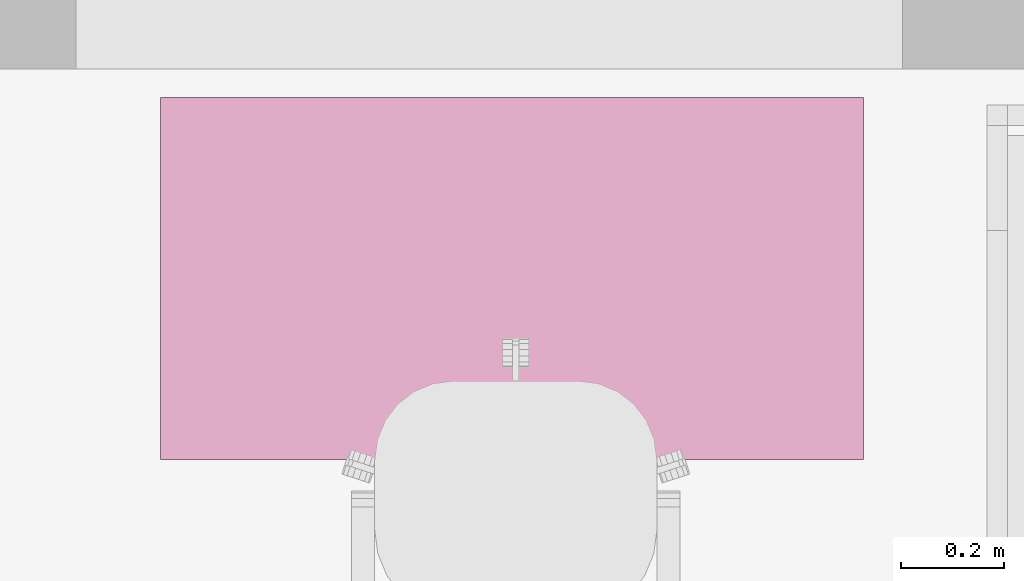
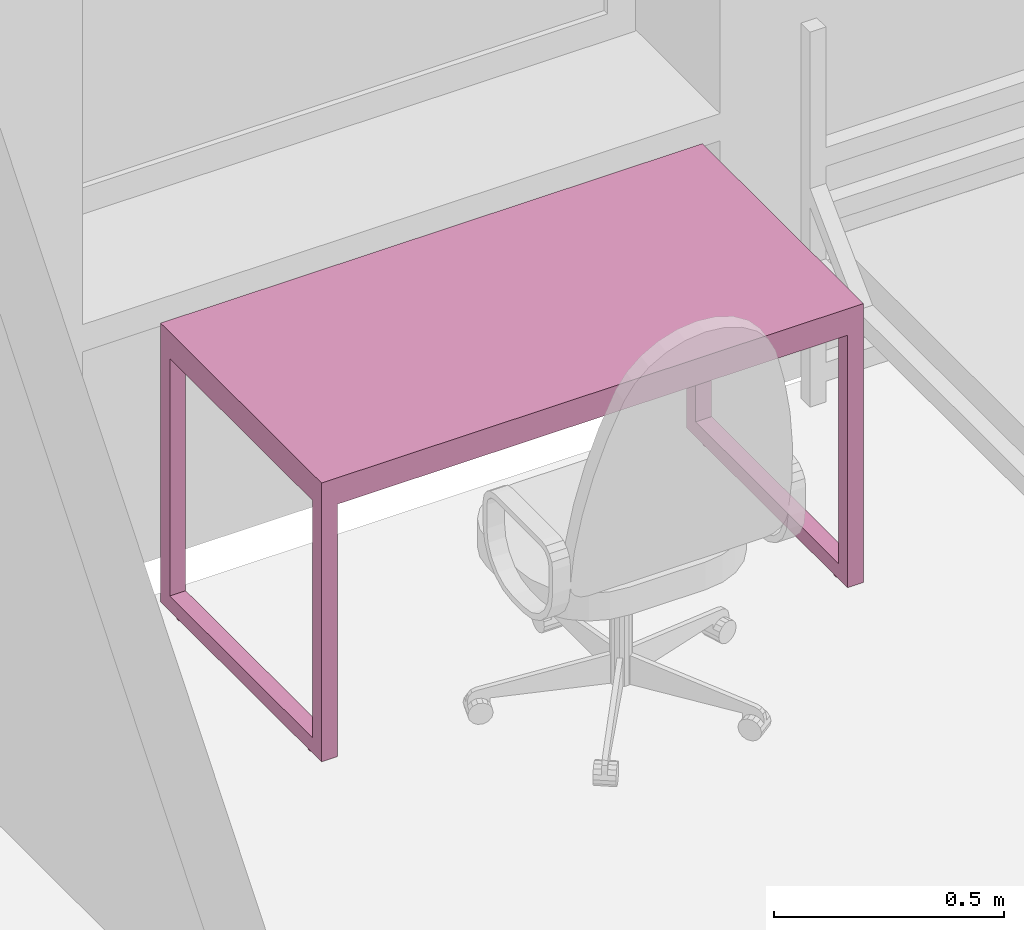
# One storey, part 30 of 48: 1 furnishing.
"""IFC2X3 building model written with IfcOpenShell, lengths in millimetres."""

import ifcopenshell
import ifcopenshell.guid

model = None  # the IFC model being written
_history = None  # IfcOwnerHistory: only IFC2X3 demands one
_inside = {}  # id of a spatial element -> (the spatial element, [elements in it])
_under = {}  # id of a project, library or spatial element -> (it, [spatial elements below it])
_declared = {}  # id of a project -> (the project, [libraries it declares])
_typed = {}  # id of a type object -> (the type object, [elements of that type])
_made_of = {}  # id of a material, layer set ... -> (it, [elements and type objects made of it])


def new_model(schema):
    """Start an empty IFC model of exactly this schema.

    Asked for "IFC4X3", IfcOpenShell would pick the latest addendum, in which some entities
    have other attributes; the version numbers below select the first issue.
    IFC2X3 requires an IfcOwnerHistory on every rooted entity: one is made here for all.
    """
    global model, _history
    if schema == "IFC4X3":
        model = ifcopenshell.file(schema_version=(4, 3, 0, 0))
    else:
        model = ifcopenshell.file(schema=schema)
    _inside.clear()
    _under.clear()
    _declared.clear()
    _typed.clear()
    _made_of.clear()
    _history = None
    if model.schema == "IFC2X3":
        org = make("IfcOrganization", Name="unknown")
        user = make(
            "IfcPersonAndOrganization",
            ThePerson=make("IfcPerson", FamilyName="unknown"),
            TheOrganization=org,
        )
        app = make(
            "IfcApplication",
            ApplicationDeveloper=org,
            Version="unknown",
            ApplicationFullName="unknown",
            ApplicationIdentifier="unknown",
        )
        _history = make(
            "IfcOwnerHistory",
            OwningUser=user,
            OwningApplication=app,
            ChangeAction="ADDED",
            CreationDate=0,
        )
    return model


def make(cls, **values):
    """One entity of the class cls with the attributes given. An attribute that is None is left unset."""
    return model.create_entity(
        cls, **{name: value for name, value in values.items() if value is not None}
    )


def entity(cls, *values):
    """Any entity or typed value of the class cls, its attributes in the order of the schema. None: left unset."""
    e = model.create_entity(cls)
    for i, value in enumerate(values):
        if value is not None:
            e[i] = value
    return e


def rooted(cls, **values):
    """An entity with a GlobalId (a new one), such as an element, a storey or a relation."""
    return make(cls, GlobalId=ifcopenshell.guid.new(), OwnerHistory=_history, **values)


def si_unit(unit_type, name, prefix=None):
    """IfcSIUnit, for example si_unit("LENGTHUNIT", "METRE", prefix="MILLI")."""
    return make("IfcSIUnit", UnitType=unit_type, Prefix=prefix, Name=name)


def converted_unit(unit_type, name, factor, base, dimensions=None, offset=None):
    """IfcConversionBasedUnit, such as the inch: factor (a typed value) times the base unit."""
    return make(
        "IfcConversionBasedUnit"
        if offset is None
        else "IfcConversionBasedUnitWithOffset",
        ConversionOffset=offset,
        Dimensions=None
        if dimensions is None
        else entity("IfcDimensionalExponents", *dimensions),
        UnitType=unit_type,
        Name=name,
        ConversionFactor=make(
            "IfcMeasureWithUnit", ValueComponent=factor, UnitComponent=base
        ),
    )


def derived_unit(unit_type, elements):
    """IfcDerivedUnit: a product of units, each with its exponent."""
    return make(
        "IfcDerivedUnit",
        Elements=[
            make("IfcDerivedUnitElement", Unit=unit, Exponent=power)
            for unit, power in elements
        ],
        UnitType=unit_type,
    )


def assignment(units):
    """IfcUnitAssignment: the units of a project."""
    return None if units is None else make("IfcUnitAssignment", Units=units)


def point(xyz):
    """IfcCartesianPoint."""
    return None if xyz is None else make("IfcCartesianPoint", Coordinates=xyz)


def direction(xyz):
    """IfcDirection."""
    return None if xyz is None else make("IfcDirection", DirectionRatios=xyz)


def frame(location, z_axis=None, x_axis=None):
    """IfcAxis2Placement3D, a coordinate frame: its origin and axes. An axis left out is left unset."""
    return make(
        "IfcAxis2Placement3D",
        Location=point(location),
        Axis=direction(z_axis),
        RefDirection=direction(x_axis),
    )


def origin():
    """The frame at (0, 0, 0) with its axes left unset."""
    return frame((0.0, 0.0, 0.0))


def place(relative_to, where):
    """IfcLocalPlacement: puts the frame where relative to a parent placement (None: the world)."""
    return make(
        "IfcLocalPlacement", PlacementRelTo=relative_to, RelativePlacement=where
    )


def context(
    kind, dimensions, precision=None, world=None, true_north=None, identifier=None
):
    """IfcGeometricRepresentationContext, for example the 3D "Model" context."""
    return make(
        "IfcGeometricRepresentationContext",
        ContextIdentifier=identifier,
        ContextType=kind,
        CoordinateSpaceDimension=dimensions,
        Precision=precision,
        WorldCoordinateSystem=world,
        TrueNorth=true_north,
    )


def subcontext(parent, identifier, kind, view, scale=None):
    """IfcGeometricRepresentationSubContext, for example "Body" below "Model"."""
    return make(
        "IfcGeometricRepresentationSubContext",
        ContextIdentifier=identifier,
        ContextType=kind,
        ParentContext=parent,
        TargetScale=scale,
        TargetView=view,
    )


def project(units=None, contexts=None):
    """IfcProject with its units and contexts."""
    return rooted(
        "IfcProject",
        Name="project",
        RepresentationContexts=contexts,
        UnitsInContext=assignment(units),
    )


def spatial(cls, under=None, at=None, **own):
    """A site, building, storey or space (cls), placed at a placement, below another one or the project."""
    s = rooted(cls, ObjectPlacement=at, **own)
    if under is not None:
        _under.setdefault(under.id(), (under, []))[1].append(s)
    return s


def faces_of(points, faces, orient=None, outer=None):
    """IfcFace entities. A face is a list of loops; a loop is a list of indices into points, from 0.

    orient and outer hold one flag for each loop. By default every Orientation is true, the
    first loop of a face is its IfcFaceOuterBound and the others are IfcFaceBound.
    """
    made = []
    for i, loops in enumerate(faces):
        bounds = []
        for j, loop in enumerate(loops):
            is_outer = j == 0 if outer is None else outer[i][j]
            bounds.append(
                make(
                    "IfcFaceOuterBound" if is_outer else "IfcFaceBound",
                    Bound=make("IfcPolyLoop", Polygon=[points[k] for k in loop]),
                    Orientation=True if orient is None else orient[i][j],
                )
            )
        made.append(make("IfcFace", Bounds=bounds))
    return made


def faceted_brep(points, faces, orient=None, outer=None, voids=None):
    """IfcFacetedBrep: a solid bounded by flat faces; with voids (closed shells), ...WithVoids."""
    shared = [point(p) for p in points]
    hull = make("IfcClosedShell", CfsFaces=faces_of(shared, faces, orient, outer))
    if voids is None:
        return make("IfcFacetedBrep", Outer=hull)
    return make(
        "IfcFacetedBrepWithVoids",
        Outer=hull,
        Voids=[
            make(cls, CfsFaces=faces_of(shared, fs, o, b)) for cls, fs, o, b in voids
        ],
    )


def shape(context_of_items, identifier, shape_type, items):
    """IfcShapeRepresentation: the items that make up one representation, for example the "Body"."""
    return make(
        "IfcShapeRepresentation",
        ContextOfItems=context_of_items,
        RepresentationIdentifier=identifier,
        RepresentationType=shape_type,
        Items=items,
    )


def source(mapping_origin, context_of_items, identifier, shape_type, items):
    """IfcRepresentationMap: a shape defined once, which mapped items show again and again."""
    return make(
        "IfcRepresentationMap",
        MappingOrigin=mapping_origin,
        MappedRepresentation=shape(context_of_items, identifier, shape_type, items),
    )


def transform(
    local_origin,
    x_axis=None,
    y_axis=None,
    z_axis=None,
    scale=None,
    scale2=None,
    scale3=None,
    uniform=True,
):
    """IfcCartesianTransformationOperator3D, or its non-uniform kind. x_axis, y_axis, z_axis: its Axis1, 2, 3."""
    if uniform:
        return make(
            "IfcCartesianTransformationOperator3D",
            Axis1=direction(x_axis),
            Axis2=direction(y_axis),
            LocalOrigin=point(local_origin),
            Scale=scale,
            Axis3=direction(z_axis),
        )
    return make(
        "IfcCartesianTransformationOperator3DnonUniform",
        Axis1=direction(x_axis),
        Axis2=direction(y_axis),
        LocalOrigin=point(local_origin),
        Scale=scale,
        Axis3=direction(z_axis),
        Scale2=scale2,
        Scale3=scale3,
    )


def mapped(mapping_source, mapping_target):
    """IfcMappedItem: shows the shape of a source again, moved by a transform."""
    return make(
        "IfcMappedItem", MappingSource=mapping_source, MappingTarget=mapping_target
    )


def material(Name=None, Category=None):
    """IfcMaterial."""
    return make("IfcMaterial", Name=Name, Category=Category)


def material_list(materials):
    """IfcMaterialList."""
    return make("IfcMaterialList", Materials=materials)


def made_of(thing, what):
    """Note that an element or type object is made of a material, layer set ...; save() writes the relation."""
    if what is not None:
        _made_of.setdefault(what.id(), (what, []))[1].append(thing)
    return thing


def type_object(cls, material=None, **own):
    """A type object (cls), such as IfcWallType, which elements share."""
    return made_of(rooted(cls, **own), material)


def type_shapes(of_type, sources):
    """Give a type object the sources (RepresentationMaps) that its elements show as mapped items."""
    of_type.RepresentationMaps = sources


def element(
    cls,
    number,
    at=None,
    inside=None,
    cuts=None,
    type_object=None,
    material=None,
    context=None,
    identifier="Body",
    shape_type=None,
    held_by="IfcProductDefinitionShape",
    body=None,
    shapes=None,
    **own,
):
    """One element of the class cls, such as IfcWall. Its Tag is "e" and its number.

    at: its placement. inside: the storey or other place that contains it. cuts: it is an
    opening in that element (IfcRelVoidsElement). A single representation is given by context,
    identifier, shape_type and body (its items); several are given by shapes. held_by: the class
    of the entity that holds the representations. save() writes the other relations.
    """
    e = rooted(cls, Tag="e%d" % number, ObjectPlacement=at, **own)
    if body is not None:
        shapes = [shape(context, identifier, shape_type, body)]
    if shapes is not None:
        e.Representation = make(held_by, Representations=shapes)
    if inside is not None:
        _inside.setdefault(inside.id(), (inside, []))[1].append(e)
    if cuts is not None:
        rooted(
            "IfcRelVoidsElement", RelatingBuildingElement=cuts, RelatedOpeningElement=e
        )
    if type_object is not None:
        _typed.setdefault(type_object.id(), (type_object, []))[1].append(e)
    return made_of(e, material)


def aggregate(whole, parts):
    """IfcRelAggregates: a whole, such as a stair, and the parts it consists of."""
    return rooted("IfcRelAggregates", RelatingObject=whole, RelatedObjects=parts)


def save(model, path):
    """Write the relations noted so far, then the file.

    IfcRelAggregates (storeys below a building ...), IfcRelContainedInSpatialStructure (elements
    in a storey), IfcRelDefinesByType, IfcRelAssociatesMaterial and IfcRelDeclares: one each for
    every whole, place, type object, material and project.
    """
    for whole, parts in _under.values():
        aggregate(whole, parts)
    for where, things in _inside.values():
        rooted(
            "IfcRelContainedInSpatialStructure",
            RelatedElements=things,
            RelatingStructure=where,
        )
    for kind, things in _typed.values():
        rooted("IfcRelDefinesByType", RelatedObjects=things, RelatingType=kind)
    for what, things in _made_of.values():
        rooted("IfcRelAssociatesMaterial", RelatedObjects=things, RelatingMaterial=what)
    for by, libraries in _declared.values():
        rooted("IfcRelDeclares", RelatingContext=by, RelatedDefinitions=libraries)
    model.write(path)


model = new_model("IFC2X3")

# Units and contexts
model_context = context("Model", 3, precision=0.01, world=origin(), true_north=direction((6.12303176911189e-17, 1.0)))
body_context = subcontext(model_context, "Body", "Model", "MODEL_VIEW")
ifc_project = project(units=[si_unit("LENGTHUNIT", "METRE", prefix="MILLI"), si_unit("AREAUNIT", "SQUARE_METRE"), si_unit("VOLUMEUNIT", "CUBIC_METRE"), converted_unit("PLANEANGLEUNIT", "DEGREE", entity("IfcRatioMeasure", 0.0174532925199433), si_unit("PLANEANGLEUNIT", "RADIAN"), dimensions=[0, 0, 0, 0, 0, 0, 0]), si_unit("MASSUNIT", "GRAM", prefix="KILO"), derived_unit("MASSDENSITYUNIT", [(si_unit("MASSUNIT", "GRAM", prefix="KILO"), 1), (si_unit("LENGTHUNIT", "METRE"), -3)]), si_unit("TIMEUNIT", "SECOND"), si_unit("FREQUENCYUNIT", "HERTZ"), si_unit("THERMODYNAMICTEMPERATUREUNIT", "DEGREE_CELSIUS"), derived_unit("THERMALTRANSMITTANCEUNIT", [(si_unit("MASSUNIT", "GRAM", prefix="KILO"), 1), (si_unit("THERMODYNAMICTEMPERATUREUNIT", "KELVIN"), -1), (si_unit("TIMEUNIT", "SECOND"), -3)]), derived_unit("VOLUMETRICFLOWRATEUNIT", [(si_unit("LENGTHUNIT", "METRE"), 3), (si_unit("TIMEUNIT", "SECOND"), -1)]), si_unit("ELECTRICCURRENTUNIT", "AMPERE"), si_unit("ELECTRICVOLTAGEUNIT", "VOLT"), si_unit("POWERUNIT", "WATT"), si_unit("FORCEUNIT", "NEWTON", prefix="KILO"), si_unit("ILLUMINANCEUNIT", "LUX"), si_unit("LUMINOUSFLUXUNIT", "LUMEN"), si_unit("LUMINOUSINTENSITYUNIT", "CANDELA"), derived_unit("USERDEFINED", [(si_unit("MASSUNIT", "GRAM", prefix="KILO"), -1), (si_unit("LENGTHUNIT", "METRE"), -2), (si_unit("TIMEUNIT", "SECOND"), 3), (si_unit("LUMINOUSFLUXUNIT", "LUMEN"), 1)]), derived_unit("LINEARVELOCITYUNIT", [(si_unit("LENGTHUNIT", "METRE"), 1), (si_unit("TIMEUNIT", "SECOND"), -1)]), si_unit("PRESSUREUNIT", "PASCAL"), derived_unit("USERDEFINED", [(si_unit("LENGTHUNIT", "METRE"), -2), (si_unit("MASSUNIT", "GRAM", prefix="KILO"), 1), (si_unit("TIMEUNIT", "SECOND"), -2)]), derived_unit("LINEARFORCEUNIT", [(si_unit("MASSUNIT", "GRAM", prefix="KILO"), 1), (si_unit("LENGTHUNIT", "METRE"), 1), (si_unit("TIMEUNIT", "SECOND"), -2), (si_unit("LENGTHUNIT", "METRE"), -1)]), derived_unit("PLANARFORCEUNIT", [(si_unit("MASSUNIT", "GRAM", prefix="KILO"), 1), (si_unit("LENGTHUNIT", "METRE"), 1), (si_unit("TIMEUNIT", "SECOND"), -2), (si_unit("LENGTHUNIT", "METRE"), -2)])], contexts=[model_context])

# Site, building, storey, space
site_placement = place(None, origin())
site = spatial("IfcSite", under=ifc_project, at=site_placement, Name="Default", CompositionType="ELEMENT")
building_placement = place(site_placement, origin())
building = spatial("IfcBuilding", under=site, at=building_placement, Name="SMA ARH", CompositionType="ELEMENT")
storey_placement = place(building_placement, frame((0.0, 0.0, 3300.0)))
storey = spatial("IfcBuildingStorey", under=building, at=storey_placement, Name="2 Korrus", CompositionType="ELEMENT", Elevation=3299.99999999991)
space_placement = place(storey_placement, origin())
space = spatial("IfcSpace", under=storey, at=space_placement, Name="2-20/2", CompositionType="ELEMENT", InteriorOrExteriorSpace="INTERNAL")

# Furnishing
ifc_material = material(Name="<Unnamed>")
ifc_material_list = material_list([ifc_material, ifc_material])
furniture_type = type_object("IfcFurnitureType", Name="kirjutuslaud 1360x700mm:kirjutuslaud 1360x700mm", material=ifc_material_list)
shared_shape = source(origin(), body_context, "Body", "Brep", [
    faceted_brep([(680.0, -350.0, 720.0), (680.0, 350.0, 720.0), (680.0, 350.0, 750.0), (680.0, -350.0, 750.0), (-680.0, -350.0, 720.0), (-680.0, -350.0, 750.0), (-680.0, 350.0, 750.0), (-680.0, 350.0, 720.0)], [[[0, 1, 2, 3]], [[4, 5, 6, 7]], [[1, 0, 4, 7]], [[2, 1, 7, 6]], [[3, 2, 6, 5]], [[0, 3, 5, 4]]]),
    faceted_brep([(-640.0, -310.0, 680.0), (-640.0, 310.0, 680.0), (-640.0, 310.0, 720.0), (-640.0, -310.0, 720.0), (-680.0, -350.0, 720.0), (-680.0, 350.0, 720.0), (-680.0, 350.0, 10.0), (-680.0, -350.0, 10.0), (-680.0, 310.0, 680.0), (-680.0, -310.0, 680.0), (-680.0, -310.0, 50.0), (-680.0, 310.0, 50.0), (-640.0, -350.0, 10.0), (-640.0, -350.0, 680.0), (640.0, -350.0, 680.0), (640.0, -350.0, 10.0), (680.0, -350.0, 10.0), (680.0, -350.0, 720.0), (-640.0, 350.0, 10.0), (680.0, 350.0, 720.0), (680.0, 350.0, 10.0), (640.0, 350.0, 10.0), (640.0, 350.0, 680.0), (-640.0, 350.0, 680.0), (640.0, 310.0, 720.0), (640.0, -310.0, 720.0), (-640.0, 310.0, 50.0), (-640.0, -310.0, 50.0), (640.0, -310.0, 680.0), (640.0, 310.0, 680.0), (680.0, 310.0, 680.0), (680.0, 310.0, 50.0), (680.0, -310.0, 50.0), (680.0, -310.0, 680.0), (640.0, -310.0, 50.0), (640.0, 310.0, 50.0)], [[[0, 1, 2, 3]], [[4, 5, 6, 7], [8, 9, 10, 11]], [[4, 7, 12, 13, 14, 15, 16, 17]], [[18, 12, 7, 6]], [[6, 5, 19, 20, 21, 22, 23, 18]], [[19, 5, 4, 17], [2, 24, 25, 3]], [[26, 1, 8, 11]], [[27, 26, 11, 10]], [[0, 27, 10, 9]], [[1, 0, 9, 8]], [[14, 13, 0, 28]], [[24, 2, 1, 29]], [[3, 25, 28, 0]], [[17, 16, 20, 19], [30, 31, 32, 33]], [[21, 15, 14, 28, 34, 35, 29, 22]], [[20, 16, 15, 21]], [[31, 30, 29, 35]], [[32, 31, 35, 34]], [[33, 32, 34, 28]], [[30, 33, 28, 29]], [[29, 28, 25, 24]], [[29, 1, 23, 22]], [[12, 18, 23, 1, 26, 27, 0, 13]]]),
    faceted_brep([(-663.729456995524, -270.466136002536, 0.0), (-659.847171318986, -269.955023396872, 0.0), (-655.964885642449, -270.466136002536, 0.0), (-652.347171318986, -271.964642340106, 0.0), (-649.240569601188, -274.348421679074, 0.0), (-646.85679026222, -277.455023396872, 0.0), (-645.35828392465, -281.072737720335, 0.0), (-644.847171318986, -284.955023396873, 0.0), (-645.35828392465, -288.83730907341, 0.0), (-646.85679026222, -292.455023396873, 0.0), (-649.240569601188, -295.561625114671, 0.0), (-652.347171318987, -297.945404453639, 0.0), (-655.964885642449, -299.443910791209, 0.0), (-659.847171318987, -299.955023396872, 0.0), (-663.729456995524, -299.443910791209, 0.0), (-667.347171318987, -297.945404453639, 0.0), (-670.453773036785, -295.561625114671, 0.0), (-672.837552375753, -292.455023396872, 0.0), (-674.336058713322, -288.83730907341, 0.0), (-674.847171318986, -284.955023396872, 0.0), (-674.336058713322, -281.072737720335, 0.0), (-672.837552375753, -277.455023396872, 0.0), (-670.453773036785, -274.348421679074, 0.0), (-667.347171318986, -271.964642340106, 0.0), (-655.964885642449, -299.443910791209, 10.0), (-652.347171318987, -297.945404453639, 10.0), (-649.240569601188, -295.561625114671, 10.0), (-646.85679026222, -292.455023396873, 10.0), (-645.35828392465, -288.83730907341, 10.0), (-644.847171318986, -284.955023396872, 10.0), (-645.35828392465, -281.072737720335, 10.0), (-646.85679026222, -277.455023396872, 10.0), (-649.240569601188, -274.348421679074, 10.0), (-652.347171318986, -271.964642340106, 10.0), (-655.964885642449, -270.466136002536, 10.0), (-659.847171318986, -269.955023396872, 10.0), (-663.729456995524, -270.466136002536, 10.0), (-667.347171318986, -271.964642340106, 10.0), (-670.453773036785, -274.348421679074, 10.0), (-672.837552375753, -277.455023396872, 10.0), (-674.336058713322, -281.072737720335, 10.0), (-674.847171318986, -284.955023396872, 10.0), (-674.336058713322, -288.83730907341, 10.0), (-672.837552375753, -292.455023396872, 10.0), (-670.453773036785, -295.561625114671, 10.0), (-667.347171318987, -297.945404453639, 10.0), (-663.729456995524, -299.443910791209, 10.0), (-659.847171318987, -299.955023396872, 10.0)], [[[0, 1, 2, 3, 4, 5, 6, 7, 8, 9, 10, 11, 12, 13, 14, 15, 16, 17, 18, 19, 20, 21, 22, 23]], [[24, 25, 26, 27, 28, 29, 30, 31, 32, 33, 34, 35, 36, 37, 38, 39, 40, 41, 42, 43, 44, 45, 46, 47]], [[18, 42, 41, 19]], [[17, 43, 42, 18]], [[45, 44, 16, 15]], [[17, 16, 44, 43]], [[46, 45, 15, 14]], [[47, 46, 14, 13]], [[12, 24, 47, 13]], [[11, 25, 24, 12]], [[27, 26, 10, 9]], [[11, 10, 26, 25]], [[28, 27, 9, 8]], [[29, 28, 8, 7]], [[6, 30, 29, 7]], [[5, 31, 30, 6]], [[33, 32, 4, 3]], [[5, 4, 32, 31]], [[34, 33, 3, 2]], [[35, 34, 2, 1]], [[0, 36, 35, 1]], [[23, 37, 36, 0]], [[39, 38, 22, 21]], [[23, 22, 38, 37]], [[40, 39, 21, 20]], [[41, 40, 20, 19]]]),
    faceted_brep([(-655.964885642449, 270.466136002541, 10.0), (-652.347171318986, 271.964642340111, 10.0), (-649.240569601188, 274.348421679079, 10.0), (-646.85679026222, 277.455023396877, 10.0), (-645.35828392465, 281.07273772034, 10.0), (-644.847171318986, 284.955023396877, 10.0), (-645.35828392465, 288.837309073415, 10.0), (-646.85679026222, 292.455023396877, 10.0), (-649.240569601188, 295.561625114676, 10.0), (-652.347171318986, 297.945404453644, 10.0), (-655.964885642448, 299.443910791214, 10.0), (-659.847171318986, 299.955023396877, 10.0), (-663.729456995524, 299.443910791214, 10.0), (-667.347171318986, 297.945404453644, 10.0), (-670.453773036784, 295.561625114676, 10.0), (-672.837552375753, 292.455023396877, 10.0), (-674.336058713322, 288.837309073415, 10.0), (-674.847171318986, 284.955023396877, 10.0), (-674.336058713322, 281.07273772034, 10.0), (-672.837552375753, 277.455023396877, 10.0), (-670.453773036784, 274.348421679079, 10.0), (-667.347171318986, 271.964642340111, 10.0), (-663.729456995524, 270.466136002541, 10.0), (-659.847171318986, 269.955023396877, 10.0), (-655.964885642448, 299.443910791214, 0.0), (-652.347171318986, 297.945404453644, 0.0), (-649.240569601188, 295.561625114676, 0.0), (-646.85679026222, 292.455023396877, 0.0), (-645.35828392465, 288.837309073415, 0.0), (-644.847171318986, 284.955023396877, 0.0), (-645.35828392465, 281.07273772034, 0.0), (-646.85679026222, 277.455023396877, 0.0), (-649.240569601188, 274.348421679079, 0.0), (-652.347171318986, 271.964642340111, 0.0), (-655.964885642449, 270.466136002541, 0.0), (-659.847171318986, 269.955023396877, 0.0), (-663.729456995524, 270.466136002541, 0.0), (-667.347171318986, 271.964642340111, 0.0), (-670.453773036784, 274.348421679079, 0.0), (-672.837552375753, 277.455023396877, 0.0), (-674.336058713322, 281.07273772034, 0.0), (-674.847171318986, 284.955023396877, 0.0), (-674.336058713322, 288.837309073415, 0.0), (-672.837552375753, 292.455023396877, 0.0), (-670.453773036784, 295.561625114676, 0.0), (-667.347171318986, 297.945404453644, 0.0), (-663.729456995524, 299.443910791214, 0.0), (-659.847171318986, 299.955023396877, 0.0)], [[[0, 1, 2, 3, 4, 5, 6, 7, 8, 9, 10, 11, 12, 13, 14, 15, 16, 17, 18, 19, 20, 21, 22, 23]], [[24, 25, 26, 27, 28, 29, 30, 31, 32, 33, 34, 35, 36, 37, 38, 39, 40, 41, 42, 43, 44, 45, 46, 47]], [[40, 18, 17, 41]], [[39, 19, 18, 40]], [[21, 20, 38, 37]], [[39, 38, 20, 19]], [[22, 21, 37, 36]], [[23, 22, 36, 35]], [[34, 0, 23, 35]], [[33, 1, 0, 34]], [[3, 2, 32, 31]], [[33, 32, 2, 1]], [[4, 3, 31, 30]], [[5, 4, 30, 29]], [[28, 6, 5, 29]], [[27, 7, 6, 28]], [[9, 8, 26, 25]], [[27, 26, 8, 7]], [[10, 9, 25, 24]], [[11, 10, 24, 47]], [[46, 12, 11, 47]], [[45, 13, 12, 46]], [[15, 14, 44, 43]], [[45, 44, 14, 13]], [[16, 15, 43, 42]], [[17, 16, 42, 41]]]),
    faceted_brep([(656.270543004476, -270.466136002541, 0.0), (660.152828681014, -269.955023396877, 0.0), (664.035114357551, -270.466136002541, 0.0), (667.652828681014, -271.96464234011, 0.0), (670.759430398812, -274.348421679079, 0.0), (673.14320973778, -277.455023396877, 0.0), (674.64171607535, -281.072737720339, 0.0), (675.152828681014, -284.955023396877, 0.0), (674.64171607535, -288.837309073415, 0.0), (673.14320973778, -292.455023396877, 0.0), (670.759430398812, -295.561625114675, 0.0), (667.652828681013, -297.945404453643, 0.0), (664.035114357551, -299.443910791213, 0.0), (660.152828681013, -299.955023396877, 0.0), (656.270543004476, -299.443910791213, 0.0), (652.652828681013, -297.945404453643, 0.0), (649.546226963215, -295.561625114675, 0.0), (647.162447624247, -292.455023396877, 0.0), (645.663941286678, -288.837309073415, 0.0), (645.152828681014, -284.955023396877, 0.0), (645.663941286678, -281.072737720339, 0.0), (647.162447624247, -277.455023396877, 0.0), (649.546226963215, -274.348421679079, 0.0), (652.652828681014, -271.96464234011, 0.0), (664.035114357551, -299.443910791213, 10.0), (667.652828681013, -297.945404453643, 10.0), (670.759430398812, -295.561625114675, 10.0), (673.14320973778, -292.455023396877, 10.0), (674.64171607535, -288.837309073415, 10.0), (675.152828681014, -284.955023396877, 10.0), (674.64171607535, -281.072737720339, 10.0), (673.14320973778, -277.455023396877, 10.0), (670.759430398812, -274.348421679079, 10.0), (667.652828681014, -271.96464234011, 10.0), (664.035114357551, -270.466136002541, 10.0), (660.152828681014, -269.955023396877, 10.0), (656.270543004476, -270.466136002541, 10.0), (652.652828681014, -271.96464234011, 10.0), (649.546226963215, -274.348421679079, 10.0), (647.162447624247, -277.455023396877, 10.0), (645.663941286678, -281.072737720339, 10.0), (645.152828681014, -284.955023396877, 10.0), (645.663941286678, -288.837309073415, 10.0), (647.162447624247, -292.455023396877, 10.0), (649.546226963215, -295.561625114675, 10.0), (652.652828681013, -297.945404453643, 10.0), (656.270543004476, -299.443910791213, 10.0), (660.152828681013, -299.955023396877, 10.0)], [[[0, 1, 2, 3, 4, 5, 6, 7, 8, 9, 10, 11, 12, 13, 14, 15, 16, 17, 18, 19, 20, 21, 22, 23]], [[24, 25, 26, 27, 28, 29, 30, 31, 32, 33, 34, 35, 36, 37, 38, 39, 40, 41, 42, 43, 44, 45, 46, 47]], [[18, 42, 41, 19]], [[17, 43, 42, 18]], [[45, 44, 16, 15]], [[17, 16, 44, 43]], [[46, 45, 15, 14]], [[47, 46, 14, 13]], [[12, 24, 47, 13]], [[11, 25, 24, 12]], [[27, 26, 10, 9]], [[11, 10, 26, 25]], [[28, 27, 9, 8]], [[29, 28, 8, 7]], [[6, 30, 29, 7]], [[5, 31, 30, 6]], [[33, 32, 4, 3]], [[5, 4, 32, 31]], [[34, 33, 3, 2]], [[35, 34, 2, 1]], [[0, 36, 35, 1]], [[23, 37, 36, 0]], [[39, 38, 22, 21]], [[23, 22, 38, 37]], [[40, 39, 21, 20]], [[41, 40, 20, 19]]]),
    faceted_brep([(664.035114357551, 270.466136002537, 10.0), (667.652828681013, 271.964642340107, 10.0), (670.759430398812, 274.348421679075, 10.0), (673.14320973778, 277.455023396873, 10.0), (674.64171607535, 281.072737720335, 10.0), (675.152828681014, 284.955023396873, 10.0), (674.64171607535, 288.837309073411, 10.0), (673.14320973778, 292.455023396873, 10.0), (670.759430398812, 295.561625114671, 10.0), (667.652828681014, 297.94540445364, 10.0), (664.035114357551, 299.443910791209, 10.0), (660.152828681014, 299.955023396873, 10.0), (656.270543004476, 299.443910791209, 10.0), (652.652828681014, 297.94540445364, 10.0), (649.546226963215, 295.561625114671, 10.0), (647.162447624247, 292.455023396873, 10.0), (645.663941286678, 288.837309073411, 10.0), (645.152828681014, 284.955023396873, 10.0), (645.663941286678, 281.072737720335, 10.0), (647.162447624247, 277.455023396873, 10.0), (649.546226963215, 274.348421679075, 10.0), (652.652828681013, 271.964642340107, 10.0), (656.270543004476, 270.466136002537, 10.0), (660.152828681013, 269.955023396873, 10.0), (664.035114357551, 299.443910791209, 0.0), (667.652828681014, 297.94540445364, 0.0), (670.759430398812, 295.561625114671, 0.0), (673.14320973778, 292.455023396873, 0.0), (674.64171607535, 288.837309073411, 0.0), (675.152828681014, 284.955023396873, 0.0), (674.64171607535, 281.072737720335, 0.0), (673.14320973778, 277.455023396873, 0.0), (670.759430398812, 274.348421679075, 0.0), (667.652828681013, 271.964642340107, 0.0), (664.035114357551, 270.466136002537, 0.0), (660.152828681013, 269.955023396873, 0.0), (656.270543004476, 270.466136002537, 0.0), (652.652828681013, 271.964642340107, 0.0), (649.546226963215, 274.348421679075, 0.0), (647.162447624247, 277.455023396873, 0.0), (645.663941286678, 281.072737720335, 0.0), (645.152828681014, 284.955023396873, 0.0), (645.663941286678, 288.837309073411, 0.0), (647.162447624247, 292.455023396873, 0.0), (649.546226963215, 295.561625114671, 0.0), (652.652828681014, 297.94540445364, 0.0), (656.270543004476, 299.443910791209, 0.0), (660.152828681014, 299.955023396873, 0.0)], [[[0, 1, 2, 3, 4, 5, 6, 7, 8, 9, 10, 11, 12, 13, 14, 15, 16, 17, 18, 19, 20, 21, 22, 23]], [[24, 25, 26, 27, 28, 29, 30, 31, 32, 33, 34, 35, 36, 37, 38, 39, 40, 41, 42, 43, 44, 45, 46, 47]], [[40, 18, 17, 41]], [[39, 19, 18, 40]], [[21, 20, 38, 37]], [[39, 38, 20, 19]], [[22, 21, 37, 36]], [[23, 22, 36, 35]], [[34, 0, 23, 35]], [[33, 1, 0, 34]], [[3, 2, 32, 31]], [[33, 32, 2, 1]], [[4, 3, 31, 30]], [[5, 4, 30, 29]], [[28, 6, 5, 29]], [[27, 7, 6, 28]], [[9, 8, 26, 25]], [[27, 26, 8, 7]], [[10, 9, 25, 24]], [[11, 10, 24, 47]], [[46, 12, 11, 47]], [[45, 13, 12, 46]], [[15, 14, 44, 43]], [[45, 44, 14, 13]], [[16, 15, 43, 42]], [[17, 16, 42, 41]]]),
])
type_shapes(furniture_type, [shared_shape])
furnishing_placement = place(space_placement, frame((6619.0, 12091.2030428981, 0.0)))
element("IfcFurnishingElement", 1, at=furnishing_placement, inside=space, type_object=furniture_type, Name="kirjutuslaud 1360x700mm:kirjutuslaud 1360x700mm", ObjectType="kirjutuslaud 1360x700mm:kirjutuslaud 1360x700mm", context=body_context, shape_type="MappedRepresentation", body=[
    mapped(shared_shape, transform((0.0, 0.0, 0.0), scale=1.0)),
])

save(model, "model.ifc")
